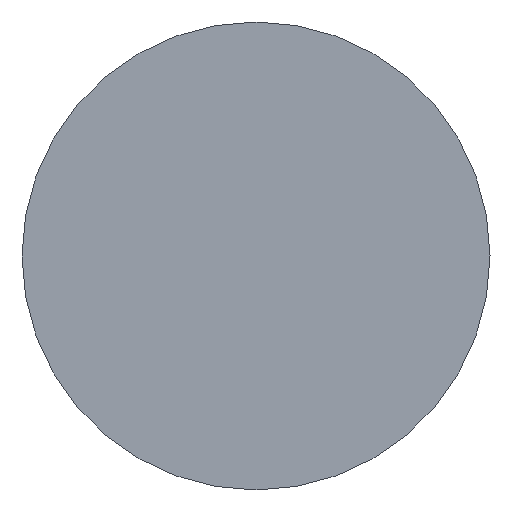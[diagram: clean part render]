
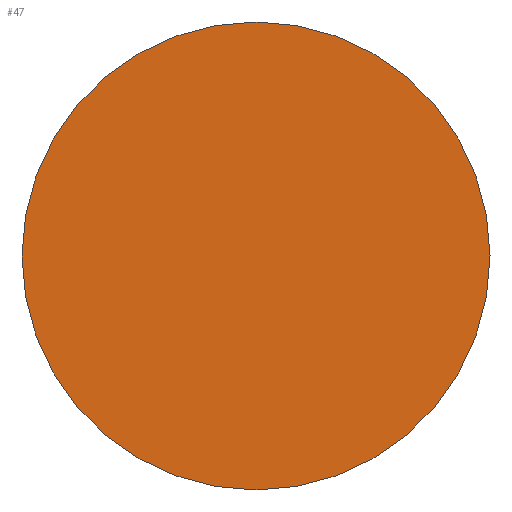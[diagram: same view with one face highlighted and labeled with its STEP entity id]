
A CAD part, left-side view. The second image highlights one B-rep face of the part: STEP entity #47.
In plain terms, the highlighted planar face has unit normal (-1, 0, 0).
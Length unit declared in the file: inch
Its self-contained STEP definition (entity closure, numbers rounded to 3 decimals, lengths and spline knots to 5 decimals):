
#16=PLANE('',#55);
#22=FACE_OUTER_BOUND('',#25,.T.);
#25=EDGE_LOOP('',(#43));
#28=CIRCLE('',#54,0.21875);
#31=VERTEX_POINT('',#78);
#35=EDGE_CURVE('',#31,#31,#28,.T.);
#43=ORIENTED_EDGE('',*,*,#35,.T.);
#47=ADVANCED_FACE('',(#22),#16,.T.);
#54=AXIS2_PLACEMENT_3D('',#80,#67,#68);
#55=AXIS2_PLACEMENT_3D('',#81,#69,#70);
#67=DIRECTION('center_axis',(-1.,0.,0.));
#68=DIRECTION('ref_axis',(0.,1.,0.));
#69=DIRECTION('center_axis',(-1.,0.,0.));
#70=DIRECTION('ref_axis',(0.,-1.,0.));
#78=CARTESIAN_POINT('',(29.39682,13.56957,0.));
#80=CARTESIAN_POINT('Origin',(29.39682,13.78832,0.));
#81=CARTESIAN_POINT('Origin',(29.39682,13.78832,0.));
